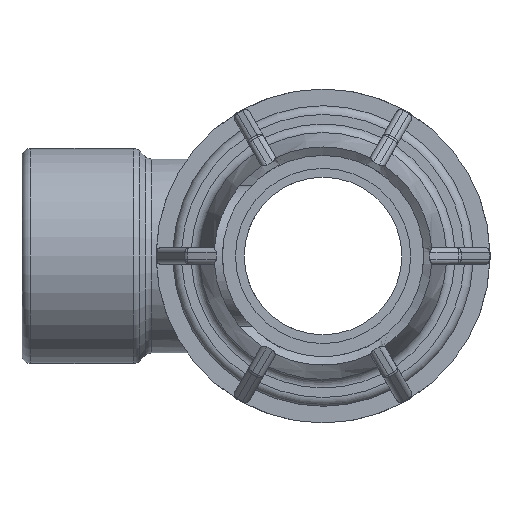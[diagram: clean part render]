
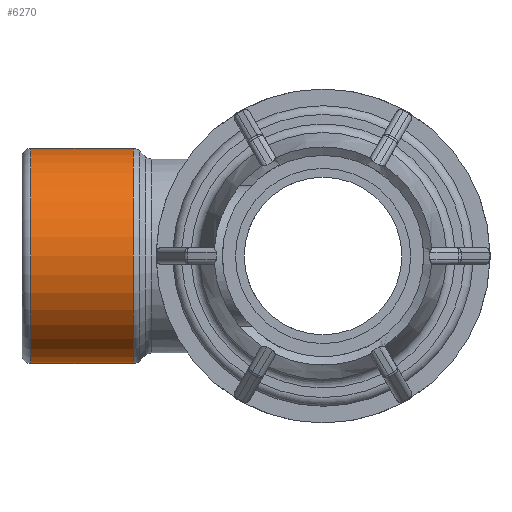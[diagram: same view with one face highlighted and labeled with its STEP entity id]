
A CAD part, left-side view. The second image highlights one B-rep face of the part: STEP entity #6270.
In plain terms, the highlighted cylindrical face has radius 19.689 mm (diameter 39.378 mm), a full revolution.
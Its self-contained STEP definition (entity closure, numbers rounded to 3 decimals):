
#1261=FACE_BOUND('',#2114,.T.);
#1671=FACE_OUTER_BOUND('',#2113,.T.);
#2113=EDGE_LOOP('',(#5730));
#2114=EDGE_LOOP('',(#5731));
#2466=CIRCLE('',#7019,19.689);
#2468=CIRCLE('',#7022,19.689);
#3005=VERTEX_POINT('',#12036);
#3007=VERTEX_POINT('',#12041);
#3916=EDGE_CURVE('',#3005,#3005,#2466,.T.);
#3918=EDGE_CURVE('',#3007,#3007,#2468,.T.);
#5730=ORIENTED_EDGE('',*,*,#3918,.F.);
#5731=ORIENTED_EDGE('',*,*,#3916,.F.);
#5865=CYLINDRICAL_SURFACE('',#7021,19.689);
#6270=ADVANCED_FACE('',(#1671,#1261),#5865,.T.);
#7019=AXIS2_PLACEMENT_3D('',#12037,#8875,#8876);
#7021=AXIS2_PLACEMENT_3D('',#12040,#8879,#8880);
#7022=AXIS2_PLACEMENT_3D('',#12042,#8881,#8882);
#8875=DIRECTION('center_axis',(0.,1.,0.));
#8876=DIRECTION('ref_axis',(1.,0.,0.));
#8879=DIRECTION('center_axis',(0.,1.,0.));
#8880=DIRECTION('ref_axis',(-1.,0.,0.));
#8881=DIRECTION('center_axis',(0.,-1.,0.));
#8882=DIRECTION('ref_axis',(1.,0.,0.));
#12036=CARTESIAN_POINT('',(-19.689,53.4,0.));
#12037=CARTESIAN_POINT('Origin',(0.,53.4,0.));
#12040=CARTESIAN_POINT('Origin',(0.,44.5,0.));
#12041=CARTESIAN_POINT('',(-19.689,34.663,0.));
#12042=CARTESIAN_POINT('Origin',(0.,34.663,0.));
